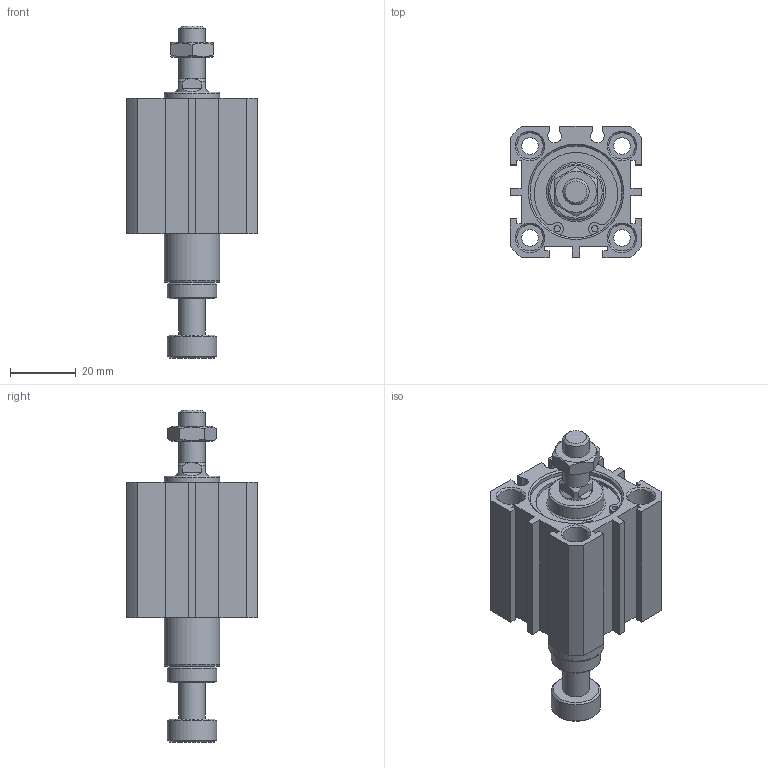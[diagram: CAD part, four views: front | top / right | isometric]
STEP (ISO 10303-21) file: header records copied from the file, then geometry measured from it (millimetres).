
FILE_DESCRIPTION((''),'2;1');
FILE_NAME('I:\3D電子目錄\氣缸\JDAR\JDAR-BS\JDAR25-BS\JDAR25x10-BS.stp','2007-05-05T11:12:19',('662F206'),(''),'Autodesk Inventor 11','Autodesk Inventor 11','');
FILE_SCHEMA(('AUTOMOTIVE_DESIGN { 1 0 10303 214 1 1 1 1 }'));
Length unit declared in the file: millimetre
Products named in the file (3): JDAR25-BS; R 形環 28
Assembly tree (3 placements, depth 2):
  JDAR25-BS
    JDAR25-BS
    R 形環 28  x2
Bounding box: 40 x 40 x 101.1 mm (x, y, z)
Volume: 58116.7 mm3; surface area: 20302.5 mm2
Topology: 3 solids, 3 shells, 175 faces, 406 edges, 263 vertices
Faces by surface type: plane 94, cylinder 50, cone 23, bspline 6, torus 2
Full cylindrical faces by diameter (mm): 1.5 x2, 1.9 x4, 5.1 x4, 8 x11, 10 x1, 15 x2, 17 x2, 28 x4, 29.4 x2
Entity records: 4479 total; most frequent: CARTESIAN_POINT 889, DIRECTION 742, ORIENTED_EDGE 630, EDGE_CURVE 315, AXIS2_PLACEMENT_3D 284, EDGE_LOOP 256, VERTEX_POINT 237, VECTOR 174
